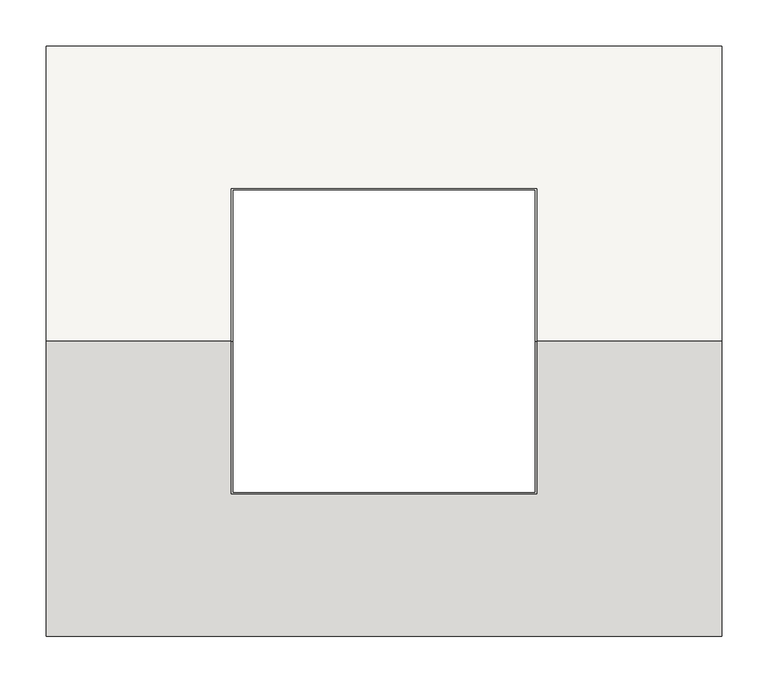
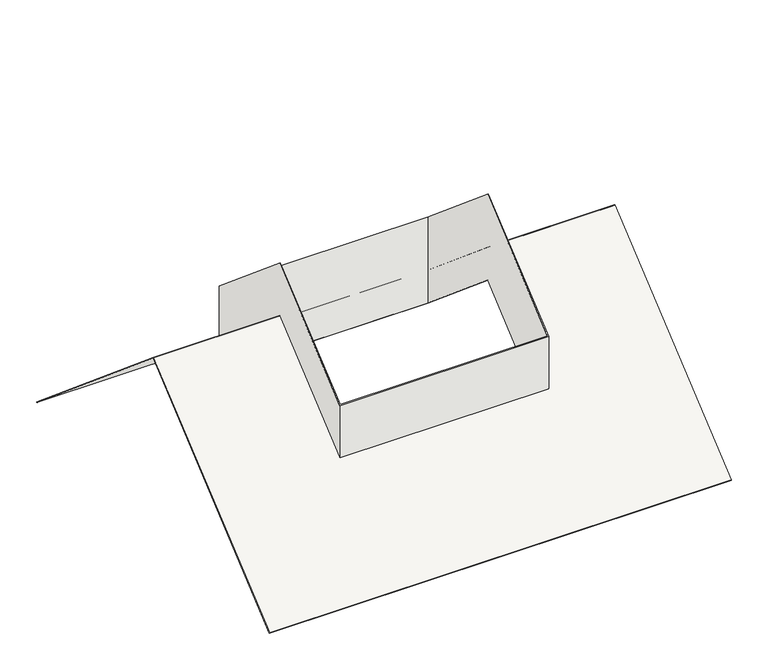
"""IFC4 building model written with IfcOpenShell, lengths in millimetres: covering geometry, MG_BPL_Mini Delta_ridgeroofflashing_M&G : ridgeroofflashing Mini-Delta."""

from ifc_helpers import new_model, si_unit, origin, place, context, project, spatial, faceted_brep, source, transform, mapped, element, save


def covering_ce736b70(model_context):
    return source(origin(), model_context, "Body", "Brep", [
        faceted_brep([(365.0, -153.2088886, -267.0089611), (365.0, -153.8516762, -266.2429166), (-365.0, -153.8516762, -266.2429166), (-365.0, -153.2088886, -267.0089611), (365.0, 165.0, 0.0), (365.0, 483.2088886, -267.0089611), (365.0, 483.8516762, -266.2429166), (365.0, 165.0, 1.3054073), (165.0, 165.0, 1.3054073), (165.0, 0.0, -137.1460319), (-165.0, 0.0, -137.1460319), (-165.0, 165.0, 1.3054073), (-365.0, 165.0, 1.3054073), (-365.0, 483.8516762, -266.2429166), (-365.0, 483.2088886, -267.0089611), (-365.0, 165.0, 0.0), (-165.0, 165.0, 0.0), (-165.0, 0.0, -138.4514391), (165.0, 0.0, -138.4514391), (165.0, 165.0, 0.0), (-165.0, 330.0, -137.1460319), (165.0, 330.0, -137.1460319), (165.0, 330.0, -138.4514391), (-165.0, 330.0, -138.4514391)], [[[0, 1, 2, 3]], [[1, 0, 4, 5, 6, 7]], [[2, 1, 7, 8, 9, 10, 11, 12]], [[3, 2, 12, 13, 14, 15]], [[0, 3, 15, 16, 17, 18, 19, 4]], [[6, 5, 14, 13]], [[7, 6, 13, 12, 11, 20, 21, 8]], [[5, 4, 19, 22, 23, 16, 15, 14]], [[10, 17, 16, 23, 20, 11]], [[17, 10, 9, 18]], [[18, 9, 8, 21, 22, 19]], [[22, 21, 20, 23]]]),
        faceted_brep([(-165.0, 330.0, -193.2785453), (-165.0, 330.0, -49.6837435), (165.0, 330.0, -49.6837435), (165.0, 330.0, -193.2785453), (-165.0, 165.0, -54.8271062), (-165.0, 0.0, -193.2785453), (-165.0, 0.0, -49.6837435), (-165.0, 165.0, 88.7676957), (165.0, 0.0, -193.2785453), (165.0, 0.0, -49.6837435), (165.0, 165.0, -54.8271062), (165.0, 165.0, 88.7676957), (-163.7, 1.3, -192.1877158), (-163.7, 1.3, -48.5929139), (163.7, 1.3, -48.5929139), (163.7, 1.3, -192.1877158), (-163.7, 165.0, -54.8271062), (-163.7, 328.7, -192.1877158), (-163.7, 328.7, -48.5929139), (-163.7, 165.0, 88.7676957), (163.7, 328.7, -192.1877158), (163.7, 328.7, -48.5929139), (163.7, 165.0, -54.8271062), (163.7, 165.0, 88.7676957)], [[[0, 1, 2, 3]], [[1, 0, 4, 5, 6, 7]], [[6, 5, 8, 9]], [[9, 8, 10, 3, 2, 11]], [[12, 13, 14, 15]], [[13, 12, 16, 17, 18, 19]], [[18, 17, 20, 21]], [[21, 20, 22, 15, 14, 23]], [[4, 16, 12, 15, 22, 10, 8, 5]], [[16, 4, 0, 3, 10, 22, 20, 17]], [[7, 19, 18, 21, 23, 11, 2, 1]], [[19, 7, 6, 9, 11, 23, 14, 13]]]),
    ])


if __name__ == "__main__":
    model = new_model("IFC4")
    model_context = context("Model", 3, world=origin())
    ifc_project = project(units=[si_unit("LENGTHUNIT", "METRE", prefix="MILLI")], contexts=[model_context])
    site = spatial("IfcSite", under=ifc_project)
    building = spatial("IfcBuilding", under=site)
    placement = place(None, origin())
    covering_shape = covering_ce736b70(model_context)
    element("IfcCovering", 1, ObjectType="MG_BPL_Mini Delta_ridgeroofflashing_M&G : ridgeroofflashing Mini-Delta", at=placement, inside=building, context=model_context, shape_type="MappedRepresentation", body=[
        mapped(covering_shape, transform((0.0, 0.0, 0.0), x_axis=(1.0, 0.0, 0.0), y_axis=(0.0, 1.0, 0.0), z_axis=(0.0, 0.0, 1.0))),
    ])
    save(model, "model.ifc")
